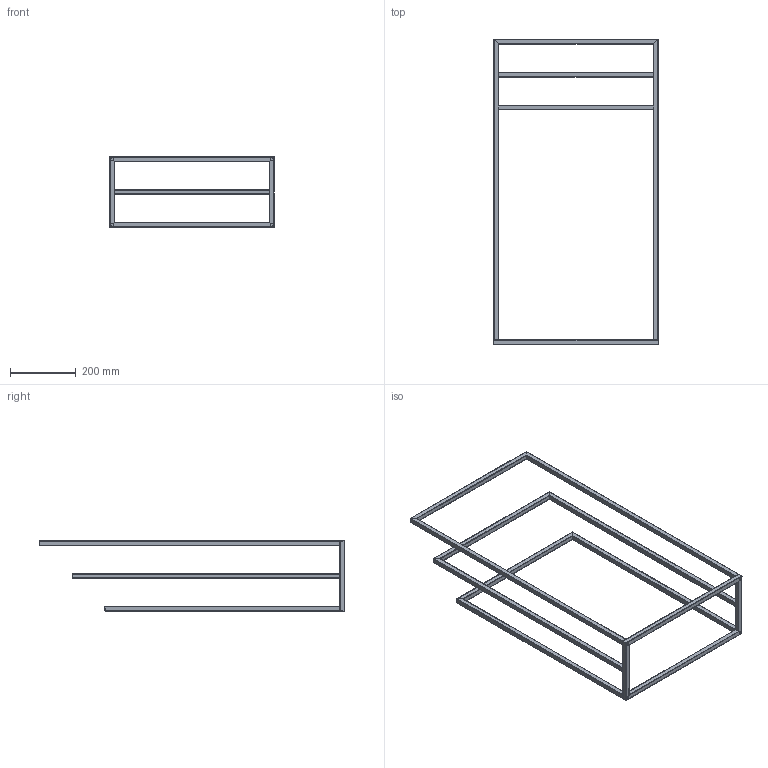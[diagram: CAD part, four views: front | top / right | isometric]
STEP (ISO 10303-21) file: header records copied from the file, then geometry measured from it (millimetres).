
FILE_DESCRIPTION (( 'STEP AP214' ), '1' );
FILE_NAME ('02-017-0500-S-00-00.STEP', '2025-05-13T06:12:03', ( '' ), ( '' ), 'SwSTEP 2.0', 'SolidWorks 2021', '' );
FILE_SCHEMA (( 'AUTOMOTIVE_DESIGN' ));
Length unit declared in the file: millimetre
Products named in the file (13): 02-017-0500-S-02-00; 02-017-0500-S-03-01; 02-017-0500-S-01-02; 02-017-0500-S-04-01; 02-017-0500-S-01-00; 02-017-0500-S-03-00; 02-017-0500-S-01-01; 02-017-0500-S-00-00; 02-017-0500-S-02-01; 02-017-0500-S-04-00; 02-017-0500-S-02-02
Assembly tree (17 placements, depth 3):
  02-017-0500-S-00-00
    02-017-0500-S-02-00
      02-017-0500-S-02-01
      02-017-0500-S-02-02  x2
    02-017-0500-S-03-00
      02-017-0500-S-02-01
      02-017-0500-S-03-01  x2
    02-017-0500-S-04-00
      02-017-0500-S-02-01
      02-017-0500-S-04-01  x2
    02-017-0500-S-01-00
      02-017-0500-S-01-01
      02-017-0500-S-01-02
      02-017-0500-S-01-02
      02-017-0500-S-01-01
Bounding box: 500 x 930 x 215 mm (x, y, z)
Volume: 613835.4 mm3; surface area: 816935.7 mm2
Topology: 13 solids, 13 shells, 214 faces, 588 edges, 392 vertices
Faces by surface type: plane 138, cylinder 76
Entity records: 5182 total; most frequent: CARTESIAN_POINT 1004, ORIENTED_EDGE 816, DIRECTION 752, EDGE_CURVE 408, LINE 296, VECTOR 296, VERTEX_POINT 272, AXIS2_PLACEMENT_3D 228
